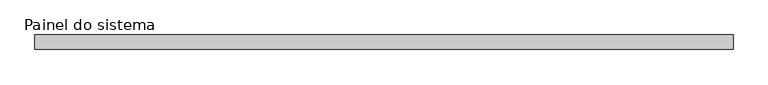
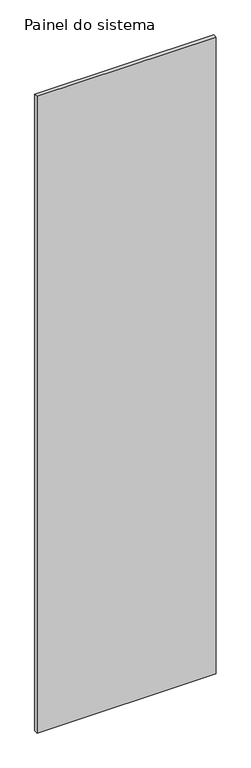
"""IFC4 building model written with IfcOpenShell, lengths in millimetres: plate geometry, Painel do sistema : Gradil Alambrado."""

from ifc_helpers import new_model, si_unit, origin, origin_with_axes, place, context, project, spatial, polyline, outline, extrude, source, transform, mapped, element, save


def painel_do_sistema_153f832d(model_context):
    return source(origin(), model_context, "Body", "SweptSolid", [
        extrude(outline(polyline([(604.3098944, -12.5), (-604.3098944, -12.5), (-604.3098944, 12.5), (604.3098944, 12.5), (604.3098944, -12.5)])), origin_with_axes(), (0.0, 0.0, 1.0), 4540.0),
    ])


if __name__ == "__main__":
    model = new_model("IFC4")
    model_context = context("Model", 3, world=origin())
    ifc_project = project(units=[si_unit("LENGTHUNIT", "METRE", prefix="MILLI")], contexts=[model_context])
    site = spatial("IfcSite", under=ifc_project)
    building = spatial("IfcBuilding", under=site)
    placement = place(None, origin())
    painel_do_sistema_shape = painel_do_sistema_153f832d(model_context)
    element("IfcPlate", 1, ObjectType="Painel do sistema : Gradil Alambrado", at=placement, inside=building, context=model_context, shape_type="MappedRepresentation", body=[
        mapped(painel_do_sistema_shape, transform((0.0, 0.0, 0.0), x_axis=(1.0, 0.0, 0.0), y_axis=(0.0, 1.0, 0.0), z_axis=(0.0, 0.0, 1.0))),
    ])
    save(model, "model.ifc")
